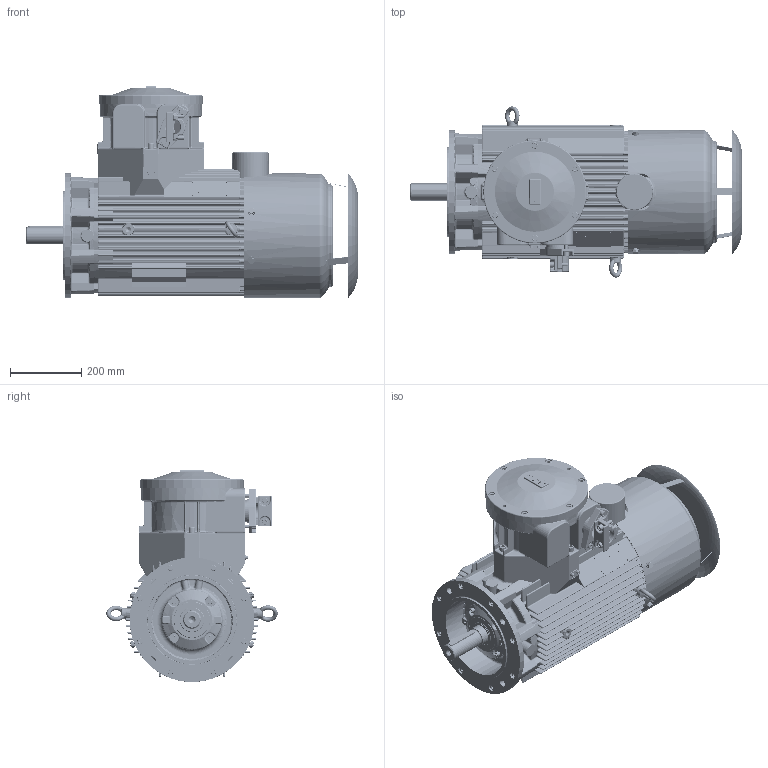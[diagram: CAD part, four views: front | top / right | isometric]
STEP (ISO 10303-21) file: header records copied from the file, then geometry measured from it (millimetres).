
FILE_DESCRIPTION(/* description */ ('Unknown'),/* implementation_level */ '2;1');
FILE_NAME(/* name */ '(E)cSTKe180M,L(2-8)-IE2,IE3',/* time_stamp */ '2021-12-14T10:56:46+01:00',/* author */ ('Unknown'),/* organization */ ('Unknown'),/* preprocessor_version */ 'ST-DEVELOPER v16.7',/* originating_system */ 'DEX',/* authorisation */ $);
FILE_SCHEMA (('AUTOMOTIVE_DESIGN {1 0 10303 214 3 1 1}'));
Products named in the file (1): (E)cSTKe180M,L(2-8)-IE2,IE3
Bounding box: 932.29 x 480.92 x 595.81 mm (x, y, z)
Volume: 44401699.8 mm3; surface area: 4739826.3 mm2
Topology: 12 solids, 57 shells, 7120 faces, 18723 edges, 11780 vertices
Faces by surface type: plane 3762, cylinder 1584, bspline 749, torus 536, cone 401, sphere 88
Full cylindrical faces by diameter (mm): 2.459 x6, 2.5 x6, 3.2 x6, 3.4 x6, 4.5 x1, 4.773 x2, 4.917 x12, 6 x4, 6.3 x1, 6.466 x4, 6.5 x2, 6.647 x10, 8 x9, 8.16 x16, 8.376 x44, 9 x4, 9.853 x10, 10 x36, 10.106 x28, 10.5 x4, 11 x8, 12 x26, 13 x8, 13.5 x10, 14.376 x2, 14.63 x4, 16 x12, 17 x1, 18 x18, 19 x4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
Entity records: 271011 total; most frequent: CARTESIAN_POINT 68150, ORIENTED_EDGE 34712, DIRECTION 32145, EDGE_CURVE 17356, VERTEX_POINT 11380, AXIS2_PLACEMENT_3D 11048, LINE 10049, VECTOR 10049
